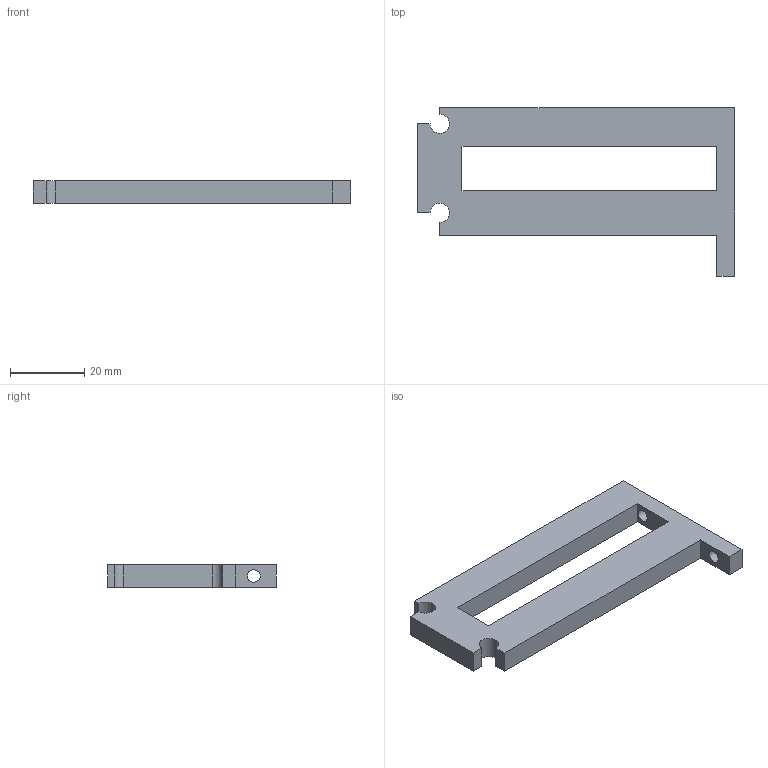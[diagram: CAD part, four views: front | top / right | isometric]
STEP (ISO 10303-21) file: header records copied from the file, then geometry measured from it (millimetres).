
FILE_DESCRIPTION(('Open CASCADE Model'),'2;1');
FILE_NAME('TH_idler_bridge','2026-11-05T16:12:21',('Author'),( 'Open CASCADE'),'Open CASCADE STEP processor 7.9','build123d', 'Unknown');
FILE_SCHEMA(('AUTOMOTIVE_DESIGN { 1 0 10303 214 1 1 1 1 }'));
Length unit declared in the file: millimetre
Products named in the file (2): TH_idler_bridge
Assembly tree (1 placements, depth 2):
  TH_idler_bridge
    TH_idler_bridge
Bounding box: 85.36 x 45.26 x 6 mm (x, y, z)
Volume: 12279.2 mm3; surface area: 6807.2 mm2
Topology: 1 solids, 1 shells, 20 faces, 54 edges, 36 vertices
Faces by surface type: plane 16, cylinder 4
Full cylindrical faces by diameter (mm): 3.4 x2
Entity records: 1388 total; most frequent: CARTESIAN_POINT 224, DIRECTION 210, LINE 142, VECTOR 142, ORIENTED_EDGE 108, PCURVE 108, DEFINITIONAL_REPRESENTATION 108, EDGE_CURVE 54
